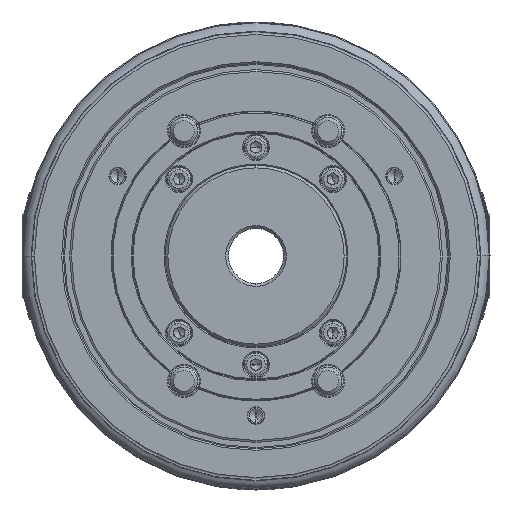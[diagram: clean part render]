
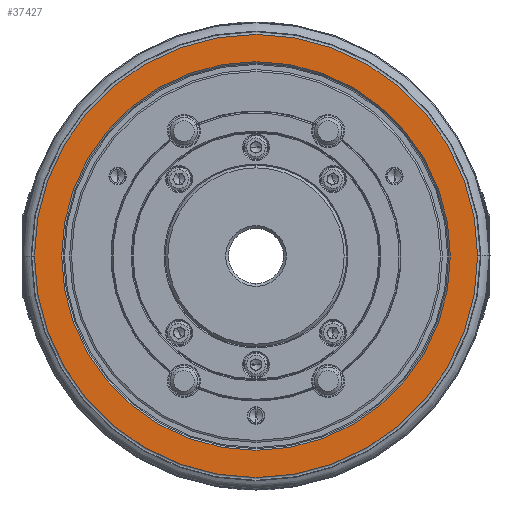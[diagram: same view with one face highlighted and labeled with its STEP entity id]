
A CAD part, left-side view. The second image highlights one B-rep face of the part: STEP entity #37427.
In plain terms, the highlighted planar face has unit normal (-1, 0, 0).
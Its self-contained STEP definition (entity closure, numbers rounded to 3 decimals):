
#1476 = FACE_BOUND ( 'NONE', #44292, .T. ) ;
#1862 = DIRECTION ( 'NONE',  ( -1., 0., 0. ) ) ;
#2378 = ORIENTED_EDGE ( 'NONE', *, *, #72495, .F. ) ;
#10976 = CIRCLE ( 'NONE', #20813, 80.5 ) ;
#13747 = DIRECTION ( 'NONE',  ( 1., 0., 0. ) ) ;
#13967 = PLANE ( 'NONE',  #51704 ) ;
#15710 = CARTESIAN_POINT ( 'NONE',  ( -81., 0., -70.6 ) ) ;
#18308 = CIRCLE ( 'NONE', #35309, 70.6 ) ;
#18999 = AXIS2_PLACEMENT_3D ( 'NONE', #42558, #13747, #65006 ) ;
#20813 = AXIS2_PLACEMENT_3D ( 'NONE', #46050, #34276, #46812 ) ;
#21425 = DIRECTION ( 'NONE',  ( 0., 0., 1. ) ) ;
#26752 = FACE_OUTER_BOUND ( 'NONE', #49493, .T. ) ;
#29203 = CIRCLE ( 'NONE', #71574, 70.6 ) ;
#29956 = DIRECTION ( 'NONE',  ( 1., 0., 0. ) ) ;
#34276 = DIRECTION ( 'NONE',  ( 1., 0., 0. ) ) ;
#35309 = AXIS2_PLACEMENT_3D ( 'NONE', #58810, #29956, #53095 ) ;
#36055 = VERTEX_POINT ( 'NONE', #70051 ) ;
#37427 = ADVANCED_FACE ( 'NONE', ( #26752, #1476 ), #13967, .T. ) ;
#40979 = CARTESIAN_POINT ( 'NONE',  ( -81., 0., -70.6 ) ) ;
#42558 = CARTESIAN_POINT ( 'NONE',  ( -81., 0., 0. ) ) ;
#43975 = EDGE_CURVE ( 'NONE', #70340, #60206, #29203, .T. ) ;
#44292 = EDGE_LOOP ( 'NONE', ( #70335, #48209 ) ) ;
#44823 = DIRECTION ( 'NONE',  ( 1., 0., 0. ) ) ;
#46050 = CARTESIAN_POINT ( 'NONE',  ( -81., 0., 0. ) ) ;
#46812 = DIRECTION ( 'NONE',  ( 0., 1., 0. ) ) ;
#48209 = ORIENTED_EDGE ( 'NONE', *, *, #43975, .T. ) ;
#49493 = EDGE_LOOP ( 'NONE', ( #54176, #2378 ) ) ;
#51704 = AXIS2_PLACEMENT_3D ( 'NONE', #15710, #1862, #21425 ) ;
#53095 = DIRECTION ( 'NONE',  ( 0., 0., -1. ) ) ;
#53342 = CARTESIAN_POINT ( 'NONE',  ( -81., 80.5, 0. ) ) ;
#54176 = ORIENTED_EDGE ( 'NONE', *, *, #66011, .F. ) ;
#55978 = CARTESIAN_POINT ( 'NONE',  ( -81., 0., 70.6 ) ) ;
#58810 = CARTESIAN_POINT ( 'NONE',  ( -81., 0., 0. ) ) ;
#58822 = EDGE_CURVE ( 'NONE', #60206, #70340, #18308, .T. ) ;
#60206 = VERTEX_POINT ( 'NONE', #55978 ) ;
#65006 = DIRECTION ( 'NONE',  ( 0., 1., 0. ) ) ;
#66011 = EDGE_CURVE ( 'NONE', #68325, #36055, #74732, .T. ) ;
#67980 = DIRECTION ( 'NONE',  ( 0., 0., -1. ) ) ;
#68325 = VERTEX_POINT ( 'NONE', #53342 ) ;
#70051 = CARTESIAN_POINT ( 'NONE',  ( -81., -80.5, 0. ) ) ;
#70335 = ORIENTED_EDGE ( 'NONE', *, *, #58822, .T. ) ;
#70340 = VERTEX_POINT ( 'NONE', #40979 ) ;
#71574 = AXIS2_PLACEMENT_3D ( 'NONE', #73651, #44823, #67980 ) ;
#72495 = EDGE_CURVE ( 'NONE', #36055, #68325, #10976, .T. ) ;
#73651 = CARTESIAN_POINT ( 'NONE',  ( -81., 0., 0. ) ) ;
#74732 = CIRCLE ( 'NONE', #18999, 80.5 ) ;
